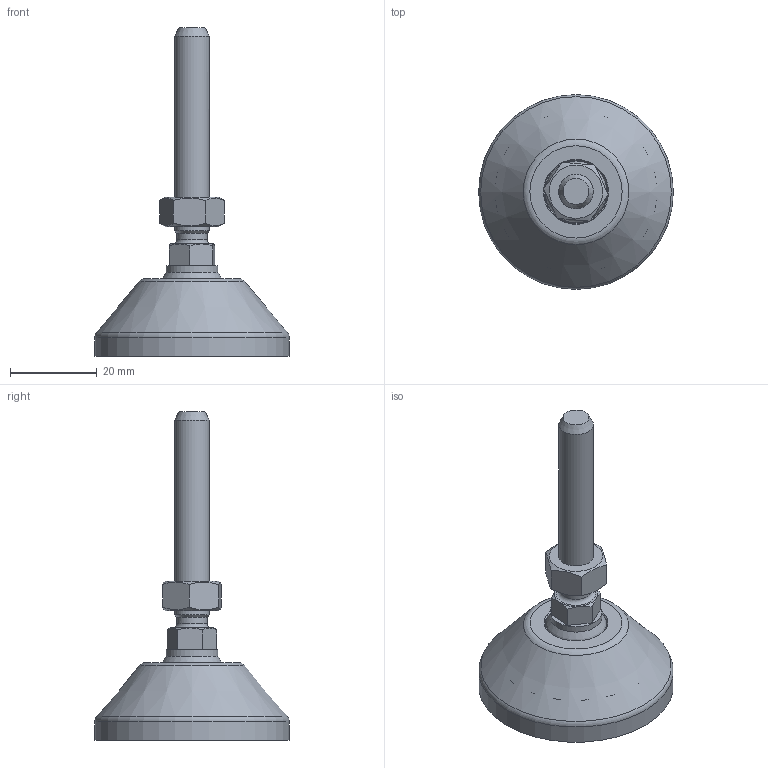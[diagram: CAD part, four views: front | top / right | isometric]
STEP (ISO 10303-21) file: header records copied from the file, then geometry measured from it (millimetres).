
FILE_DESCRIPTION(('STEP AP203'), '1');
FILE_NAME('栖闉罻', '', ('UNSPECIFIED'), ('UNSPECIFIED'), 'C3D Converter', 'C3D Toolkit', '');
FILE_SCHEMA(('CONFIG_CONTROL_DESIGN'));
Length unit declared in the file: millimetre
Products named in the file (4): A00015.1045; A00020.108080
Assembly tree (3 placements, depth 3):
  (unnamed)
    A00015.1045
    A00020.108080
      (unnamed)
Bounding box: 45 x 45 x 76 mm (x, y, z)
Volume: 17416.1 mm3; surface area: 9386 mm2
Topology: 3 solids, 3 shells, 134 faces, 376 edges, 252 vertices
Faces by surface type: plane 78, cylinder 26, cone 15, torus 13, sphere 2
Full cylindrical faces by diameter (mm): 6.647 x1, 7 x1, 8 x1, 12 x1, 14.3 x1, 15 x2, 15.5 x1, 37.3 x1, 45 x1
Entity records: 7501 total; most frequent: CARTESIAN_POINT 2840, DIRECTION 712, ORIENTED_EDGE 698, EDGE_CURVE 349, AXIS2_PLACEMENT_3D 283, VERTEX_POINT 251, EDGE_LOOP 166, FACE_BOUND 148
